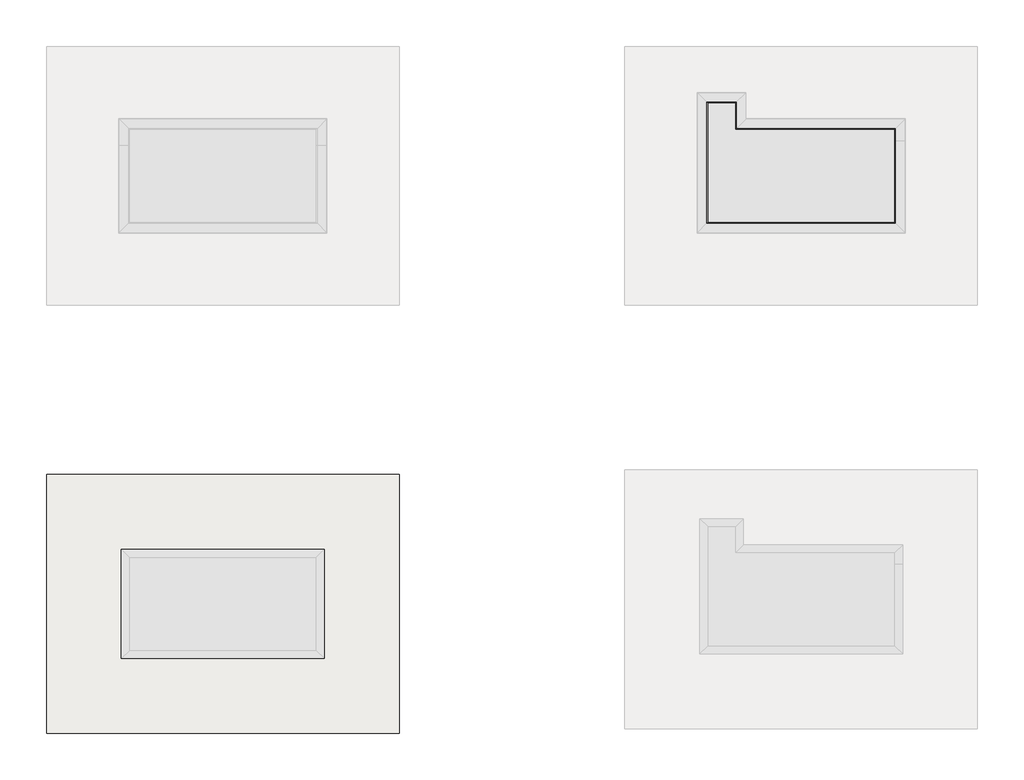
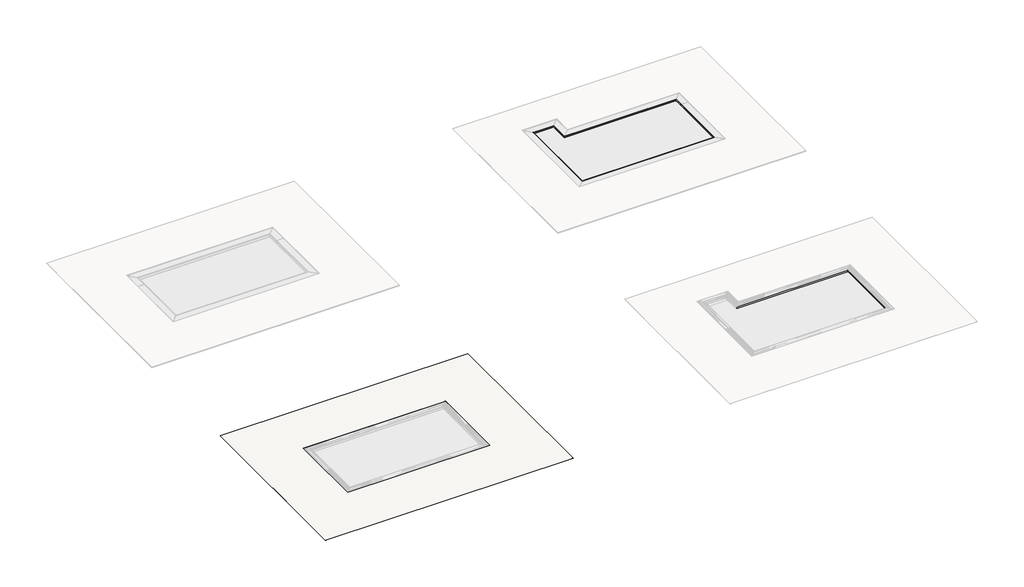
# One storey, part 2 of 8: 14 walls, 3 slabs.
"""IFC4 building model written with IfcOpenShell, lengths in millimetres."""

from ifc_helpers import new_model, si_unit, frame, origin, place, context, project, spatial, polyline, circle_curve, outline, extrude, faceted_brep, element, save
from ifc_brep_helpers import plane_surface, cylinder_surface, revolved_surface, advanced_brep

model = new_model("IFC4")

# Units and contexts
model_context = context("Model", 3, world=origin())
ifc_project = project(units=[si_unit("LENGTHUNIT", "METRE", prefix="MILLI")], contexts=[model_context])

# Site, building, storey
site = spatial("IfcSite", under=ifc_project)
building = spatial("IfcBuilding", under=site)
storey = spatial("IfcBuildingStorey", under=building, Name="EXAGRES_Serie YOHO_Piscinas_ejemplo", Elevation=0.0)

# Slabs
placement = place(None, origin())
element("IfcSlab", 1, ObjectType="Exagres_Piscina_Azul_Piscina_12x24,5_C3", at=placement, inside=storey, context=model_context, shape_type="SweptSolid", body=[
    extrude(outline(polyline([(-1509.0, -4589.848406), (-1500.0, -4589.848406), (-1500.0, -6819.8495187), (-500.0, -10819.8495187), (-500.0, -13049.8506315), (-509.0, -13049.8506315), (-509.0, -10819.8495187), (-1509.0, -6819.8495187), (-1509.0, -4589.848406)])), frame((0.0, -8536.1597881, 0.0), z_axis=(0.0, 1.0, 0.0), x_axis=(0.0, 0.0, 1.0)), (0.0, 0.0, 1.0), 4460.0022255),
])
element("IfcSlab", 2, ObjectType="Exagres_Piscina_Azul_Piscina_12x24,5_C3", at=placement, inside=storey, context=model_context, shape_type="SweptSolid", body=[
    extrude(outline(polyline([(-1509.0, -4589.848406), (-1500.0, -4589.848406), (-1500.0, -6819.8495187), (-500.0, -10819.8495187), (-500.0, -13049.8506315), (-509.0, -13049.8506315), (-509.0, -10819.8495187), (-1509.0, -6819.8495187), (-1509.0, -4589.848406)])), frame((0.0, -26830.0076884, 0.0), z_axis=(0.0, 1.0, 0.0), x_axis=(0.0, 0.0, 1.0)), (0.0, 0.0, 1.0), 4460.0022255),
])
element("IfcSlab", 3, ObjectType="Exagres_Yoho_Natural_Base_16,25x66,5_C3", at=placement, inside=storey, context=model_context, shape_type="SweptSolid", body=[
    extrude(outline(polyline([(-1289.848406, -19070.0054629), (-1289.848406, -30130.0076884), (-16349.8506315, -30130.0076884), (-16349.8506315, -19070.0054629), (-1289.848406, -19070.0054629)]), holes=[polyline([(-4489.8495187, -22270.0065757), (-13149.8495187, -22270.0065757), (-13149.8495187, -26930.0065757), (-4489.8495187, -26930.0065757), (-4489.8495187, -22270.0065757)])]), frame((0.0, 0.0, 20.0), z_axis=(0.0, 0.0, 1.0), x_axis=(1.0, 0.0, 0.0)), (0.0, 0.0, 1.0), 10.0),
])

# Walls
element("IfcWall", 4, ObjectType="Exagres_Piscina Skimmer - Borde 45x75 - Yoho Maple -", at=placement, inside=storey, context=model_context, shape_type="Brep", body=[
    faceted_brep([(17880.1504813, -4306.1586753, -1510.0), (19880.1504813, -4306.1586753, -1510.0), (19880.1504813, -4306.1586753, -1509.0), (17880.1504813, -4306.1586753, -1509.0), (13880.1504813, -4306.1586753, -509.0), (13080.1504813, -4306.1586753, -509.0), (13080.1504813, -4306.1586753, -510.0), (13880.1504813, -4306.1586753, -510.0), (20105.1504813, -4081.1586753, -1510.0), (17880.1504813, -4081.1586753, -1510.0), (13880.1504813, -4081.1586753, -510.0), (13305.1504813, -4081.1586753, -510.0), (13305.1504813, -4081.1586753, -509.0), (13880.1504813, -4081.1586753, -509.0), (17880.1504813, -4081.1586753, -1509.0), (20105.1504813, -4081.1586753, -1509.0)], [[[0, 1, 2, 3, 4, 5, 6, 7]], [[8, 9, 10, 11, 12, 13, 14, 15]], [[1, 0, 9, 8]], [[7, 6, 11, 10]], [[0, 7, 10, 9]], [[1, 8, 15, 2]], [[11, 6, 5, 12]], [[4, 13, 12, 5]], [[14, 3, 2, 15]], [[13, 4, 3, 14]]]),
    faceted_brep([(19880.1504813, -4306.1586753, 0.0), (13080.1504813, -4306.1586753, 0.0), (13080.1504813, -4306.1586753, -500.0), (13880.1504813, -4306.1586753, -500.0), (17880.1504813, -4306.1586753, -1500.0), (19880.1504813, -4306.1586753, -1500.0), (13305.1504813, -4081.1586753, -200.0), (20105.1504813, -4081.1586753, -200.0), (20105.1504813, -4081.1586753, -1500.0), (17880.1504813, -4081.1586753, -1500.0), (13880.1504813, -4081.1586753, -500.0), (13305.1504813, -4081.1586753, -500.0), (19905.1504813, -4281.1586753, -200.0), (13105.1504813, -4281.1586753, -200.0), (13105.1504813, -4281.1586753, 0.0), (19905.1504813, -4281.1586753, 0.0), (19892.3671448, -4293.9420118, 0.0), (19897.5535757, -4288.7555809, 0.0), (13097.5535757, -4288.7555809, 0.0), (13092.3671448, -4293.9420118, 0.0)], [[[0, 1, 2, 3, 4, 5]], [[6, 7, 8, 9, 10, 11]], [[12, 13, 14, 15]], [[13, 12, 7, 6]], [[1, 0, 16, 17, 15, 14, 18, 19]], [[7, 12, 15, 17, 16, 0, 5, 8]], [[19, 18, 14, 13, 6, 11, 2, 1]], [[10, 3, 2, 11]], [[4, 9, 8, 5]], [[3, 10, 9, 4]]]),
])
element("IfcWall", 5, ObjectType="Exagres_Piscina Skimmer - Borde 45x75 - Yoho Maple -", at=placement, inside=storey, context=model_context, shape_type="Brep", body=[
    faceted_brep([(19880.1504813, -4306.1586753, -1510.0), (19880.1504813, -4813.6586753, -1510.0), (19880.1504813, -4813.6586753, -1509.0), (19880.1504813, -4306.1586753, -1509.0), (20105.1504813, -4813.6586753, -1510.0), (20105.1504813, -4081.1586753, -1510.0), (20105.1504813, -4081.1586753, -1509.0), (20105.1504813, -4813.6586753, -1509.0)], [[[0, 1, 2, 3]], [[4, 5, 6, 7]], [[1, 0, 5, 4]], [[1, 4, 7, 2]], [[5, 0, 3, 6]], [[3, 2, 7, 6]]]),
    faceted_brep([(19880.1504813, -4813.6586753, 0.0), (19880.1504813, -4306.1586753, 0.0), (19880.1504813, -4306.1586753, -1500.0), (19880.1504813, -4813.6586753, -1500.0), (20105.1504813, -4081.1586753, -200.0), (20105.1504813, -4813.6586753, -200.0), (20105.1504813, -4813.6586753, -1500.0), (20105.1504813, -4081.1586753, -1500.0), (19905.1504813, -4813.6586753, -200.0), (19905.1504813, -4813.6586753, 0.0), (19897.5535757, -4813.6586753, 0.0), (19892.3671448, -4813.6586753, 0.0), (19905.1504813, -4281.1586753, 0.0), (19897.5535757, -4288.7555809, 0.0), (19892.3671448, -4293.9420118, 0.0), (19905.1504813, -4281.1586753, -200.0)], [[[0, 1, 2, 3]], [[4, 5, 6, 7]], [[8, 9, 10, 11, 0, 3, 6, 5]], [[1, 0, 11, 10, 9, 12, 13, 14]], [[9, 8, 15, 12]], [[5, 4, 15, 8]], [[12, 15, 4, 7, 2, 1, 14, 13]], [[3, 2, 7, 6]]]),
])
element("IfcWall", 6, ObjectType="Exagres_Piscina Skimmer - Borde 45x75 - Yoho Maple -", at=placement, inside=storey, context=model_context, shape_type="Brep", body=[
    faceted_brep([(19905.1504813, -8306.1586753, -200.0), (20105.1504813, -8306.1586753, -200.0), (20105.1504813, -8306.1586753, -1500.0), (17975.8793908, -8306.1586753, -1500.0), (16497.7724506, -8306.1586753, -1154.4054923), (13880.1504813, -8306.1586753, -500.0), (11880.1504813, -8306.1586753, -500.0), (11880.1504813, -8306.1586753, 0.0), (19880.1504813, -8306.1586753, 0.0), (19892.3671448, -8306.1586753, 0.0), (19897.5535757, -8306.1586753, 0.0), (19905.1504813, -8306.1586753, 0.0), (20105.1504813, -8531.1586753, -200.0), (11655.1504813, -8531.1586753, -200.0), (11655.1504813, -8531.1586753, -500.0), (13880.1504813, -8531.1586753, -500.0), (16497.7724506, -8531.1586753, -1154.4054923), (17975.8793908, -8531.1586753, -1500.0), (20105.1504813, -8531.1586753, -1500.0), (19905.1504813, -8331.1586753, -200.0), (19905.1504813, -8331.1586753, 0.0), (11855.1504813, -8331.1586753, 0.0), (11855.1504813, -8331.1586753, -200.0), (11867.9338177, -8318.3753388, 0.0), (11862.7473869, -8323.5617697, 0.0)], [[[0, 1, 2, 3, 4, 5, 6, 7, 8, 9, 10, 11]], [[12, 13, 14, 15, 16, 17, 18]], [[19, 20, 21, 22]], [[19, 22, 13, 12, 1, 0]], [[20, 19, 0, 11]], [[8, 7, 23, 24, 21, 20, 11, 10, 9]], [[4, 3, 17, 16]], [[13, 22, 21, 24, 23, 7, 6, 14]], [[1, 12, 18, 2]], [[5, 15, 14, 6]], [[3, 2, 18, 17]], [[15, 5, 4, 16]]]),
    faceted_brep([(13741.651594, -8306.1586753, -510.0), (11880.1504813, -8306.1586753, -510.0), (11880.1504813, -8306.1586753, -509.0), (13880.1504813, -8306.1586753, -509.0), (15941.9126782, -8306.1586753, -1024.4405492), (11655.1504813, -8531.1586753, -510.0), (13741.651594, -8531.1586753, -510.0), (15941.9126782, -8531.1586753, -1024.4405492), (13880.1504813, -8531.1586753, -509.0), (11655.1504813, -8531.1586753, -509.0)], [[[0, 1, 2, 3, 4]], [[5, 6, 7, 8, 9]], [[6, 0, 4, 7]], [[1, 0, 6, 5]], [[1, 5, 9, 2]], [[8, 3, 2, 9]], [[3, 8, 7, 4]]]),
    faceted_brep([(20105.1504813, -8306.1586753, -1510.0), (19880.1504813, -8306.1586753, -1510.0), (18018.6493685, -8306.1586753, -1510.0), (18014.3723707, -8306.1586753, -1509.0), (20105.1504813, -8306.1586753, -1509.0), (18018.6493685, -8531.1586753, -1510.0), (20105.1504813, -8531.1586753, -1510.0), (20105.1504813, -8531.1586753, -1509.0), (18014.3723707, -8531.1586753, -1509.0)], [[[0, 1, 2, 3, 4]], [[5, 6, 7, 8]], [[2, 1, 0, 6, 5]], [[2, 5, 8, 3]], [[6, 0, 4, 7]], [[4, 3, 8, 7]]]),
])
element("IfcWall", 7, ObjectType="Exagres_Piscina Skimmer - Borde 45x75 - Yoho Maple -", at=placement, inside=storey, context=model_context, shape_type="AdvancedBrep", body=[
    advanced_brep(
    [(11880.1504813, -8306.1586753, -500.0), (11880.1504813, -4306.1586753, -500.0), (11880.1504813, -4081.1586753, -500.0), (11880.1504813, -3186.1586753, -500.0), (11880.1504813, -3186.1586753, -109.0), (11880.1504813, -3402.2586753, -109.0), (11880.1504813, -3402.2586753, -106.4), (11880.1504813, -3402.2586753, -100.0), (11880.1504813, -3186.1586753, -100.0), (11880.1504813, -3186.1586753, 0.0), (11880.1504813, -8306.1586753, 0.0), (11880.1504813, -4026.1586753, -409.0), (11880.1504813, -4282.2586753, -409.0), (11880.1504813, -4282.2586753, -406.4), (11880.1504813, -4299.7586753, -423.9), (11880.1504813, -4306.1586753, -423.9), (11880.1504813, -4282.2586753, -400.0), (11880.1504813, -4026.1586753, -400.0), (11880.1504813, -3726.1586753, -309.0), (11880.1504813, -4002.2586753, -309.0), (11880.1504813, -4002.2586753, -306.4), (11880.1504813, -4019.7586753, -323.9), (11880.1504813, -4026.1586753, -323.9), (11880.1504813, -4002.2586753, -300.0), (11880.1504813, -3726.1586753, -300.0), (11880.1504813, -3426.1586753, -209.0), (11880.1504813, -3702.2586753, -209.0), (11880.1504813, -3702.2586753, -206.4), (11880.1504813, -3719.7586753, -223.9), (11880.1504813, -3726.1586753, -223.9), (11880.1504813, -3702.2586753, -200.0), (11880.1504813, -3426.1586753, -200.0), (11655.1504813, -2961.1586753, -500.0), (11655.1504813, -8531.1586753, -500.0), (11655.1504813, -8531.1586753, -200.0), (11655.1504813, -2961.1586753, -200.0), (11867.9338177, -3173.9420118, 0.0), (11862.7473869, -3168.7555809, 0.0), (11855.1504813, -3161.1586753, 0.0), (11855.1504813, -8331.1586753, 0.0), (11862.7473869, -8323.5617697, 0.0), (11867.9338177, -8318.3753388, 0.0), (11855.1504813, -8331.1586753, -200.0), (11855.1504813, -3161.1586753, -100.0), (11855.1504813, -3402.2586753, -100.0), (11855.1504813, -3402.2586753, -109.0), (11855.1504813, -3161.1586753, -109.0), (11855.1504813, -3161.1586753, -200.0), (11855.1504813, -3426.1586753, -200.0), (11855.1504813, -3702.2586753, -200.0), (11855.1504813, -4026.1586753, -409.0), (11855.1504813, -4282.2586753, -409.0), (11855.1504813, -4026.1586753, -400.0), (11855.1504813, -4282.2586753, -400.0), (11855.1504813, -4306.1586753, -423.9), (11855.1504813, -4299.7586753, -423.9), (11855.1504813, -4282.2586753, -406.4), (11855.1504813, -3726.1586753, -309.0), (11855.1504813, -4002.2586753, -309.0), (11855.1504813, -3726.1586753, -300.0), (11855.1504813, -4002.2586753, -300.0), (11855.1504813, -4026.1586753, -323.9), (11855.1504813, -4019.7586753, -323.9), (11855.1504813, -4002.2586753, -306.4), (11855.1504813, -3426.1586753, -209.0), (11855.1504813, -3702.2586753, -209.0), (11855.1504813, -3426.1586753, -200.0), (11855.1504813, -3702.2586753, -200.0), (11855.1504813, -3726.1586753, -223.9), (11855.1504813, -3719.7586753, -223.9), (11855.1504813, -3702.2586753, -206.4)],
    [
        (0, 1),
        (1, 2),
        (2, 3),
        (3, 4),
        (4, 5),
        (5, 6),
        (6, 7),
        (7, 8),
        (8, 9),
        (9, 10),
        (10, 0),
        (11, 12),
        (12, 13),
        (13, 14, circle_curve(frame((11880.1504813, -4282.2586753, -423.9), z_axis=(1.0, 0.0, 0.0), x_axis=(0.0, 1.0, 0.0)), 17.5)),
        (14, 15),
        (15, 16, circle_curve(frame((11880.1504813, -4282.2586753, -423.9), z_axis=(-1.0, 0.0, 0.0), x_axis=(0.0, 1.0, 0.0)), 23.9)),
        (16, 17),
        (17, 11),
        (18, 19),
        (19, 20),
        (20, 21, circle_curve(frame((11880.1504813, -4002.2586753, -323.9), z_axis=(1.0, 0.0, 0.0), x_axis=(0.0, 1.0, 0.0)), 17.5)),
        (21, 22),
        (22, 23, circle_curve(frame((11880.1504813, -4002.2586753, -323.9), z_axis=(-1.0, 0.0, 0.0), x_axis=(0.0, 1.0, 0.0)), 23.9)),
        (23, 24),
        (24, 18),
        (25, 26),
        (26, 27),
        (27, 28, circle_curve(frame((11880.1504813, -3702.2586753, -223.9), z_axis=(1.0, 0.0, 0.0), x_axis=(0.0, 1.0, 0.0)), 17.5)),
        (28, 29),
        (29, 30, circle_curve(frame((11880.1504813, -3702.2586753, -223.9), z_axis=(-1.0, 0.0, 0.0), x_axis=(0.0, 1.0, 0.0)), 23.9)),
        (30, 31),
        (31, 25),
        (32, 33),
        (33, 34),
        (34, 35),
        (35, 32),
        (0, 33),
        (32, 3),
        (9, 36),
        (36, 37),
        (37, 38),
        (38, 39),
        (39, 40),
        (40, 41),
        (41, 10),
        (42, 39),
        (38, 43),
        (43, 44),
        (44, 45),
        (45, 46),
        (46, 47),
        (47, 48),
        (48, 49),
        (49, 42),
        (34, 42),
        (47, 35),
        (46, 4),
        (8, 43),
        (11, 50),
        (50, 51),
        (51, 12),
        (52, 17),
        (16, 53),
        (53, 52),
        (50, 52),
        (53, 54, circle_curve(frame((11855.1504813, -4282.2586753, -423.9), z_axis=(1.0, 0.0, 0.0), x_axis=(0.0, 1.0, 0.0)), 23.9)),
        (54, 55),
        (55, 56, circle_curve(frame((11855.1504813, -4282.2586753, -423.9), z_axis=(-1.0, 0.0, 0.0), x_axis=(0.0, 1.0, 0.0)), 17.5)),
        (56, 51),
        (18, 57),
        (57, 58),
        (58, 19),
        (59, 24),
        (23, 60),
        (60, 59),
        (57, 59),
        (60, 61, circle_curve(frame((11855.1504813, -4002.2586753, -323.9), z_axis=(1.0, 0.0, 0.0), x_axis=(0.0, 1.0, 0.0)), 23.9)),
        (61, 62),
        (62, 63, circle_curve(frame((11855.1504813, -4002.2586753, -323.9), z_axis=(-1.0, 0.0, 0.0), x_axis=(0.0, 1.0, 0.0)), 17.5)),
        (63, 58),
        (25, 64),
        (64, 65),
        (65, 26),
        (66, 31),
        (30, 67),
        (67, 66),
        (64, 66),
        (67, 68, circle_curve(frame((11855.1504813, -3702.2586753, -223.9), z_axis=(1.0, 0.0, 0.0), x_axis=(0.0, 1.0, 0.0)), 23.9)),
        (68, 69),
        (69, 70, circle_curve(frame((11855.1504813, -3702.2586753, -223.9), z_axis=(-1.0, 0.0, 0.0), x_axis=(0.0, 1.0, 0.0)), 17.5)),
        (70, 65),
        (45, 5),
        (7, 44),
        (70, 27),
        (63, 20),
        (56, 13),
        (15, 54),
        (55, 14),
        (22, 61),
        (62, 21),
        (29, 68),
        (69, 28),
    ],
    [
        plane_surface(frame((11880.1504813, -8306.1586753, -500.0), z_axis=(1.0, 0.0, 0.0), x_axis=(0.0, 1.0, 0.0))),
        plane_surface(frame((11655.1504813, -8306.1586753, -500.0), z_axis=(-1.0, 0.0, 0.0), x_axis=(0.0, -1.0, 0.0))),
        plane_surface(frame((11880.1504813, -8418.6586753, -500.0), z_axis=(0.0, 0.0, -1.0), x_axis=(-1.0, 0.0, 0.0))),
        plane_surface(frame((11880.1504813, -3073.6586753, 0.0), z_axis=(0.0, 0.0, 1.0), x_axis=(-1.0, 0.0, 0.0))),
        plane_surface(frame((11855.1504813, -8331.1586753, -200.0), z_axis=(-1.0, 0.0, 0.0), x_axis=(0.0, 1.0, 0.0))),
        plane_surface(frame((19880.1504813, -8731.1586753, -200.0), z_axis=(0.0, 0.0, 1.0), x_axis=(-1.0, 0.0, 0.0))),
        plane_surface(frame((11880.1504813, -3186.1586753, 0.0), z_axis=(0.7071067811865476, 0.7071067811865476, 0.0), x_axis=(-0.7071067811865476, 0.7071067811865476, 0.0))),
        plane_surface(frame((11655.1504813, -8531.1586753, 0.0), z_axis=(0.7071067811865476, -0.7071067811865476, 0.0), x_axis=(0.7071067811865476, 0.7071067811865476, 0.0))),
        plane_surface(frame((13080.1504813, -3839.4052265, -409.0), z_axis=(0.0, 0.0, 1.0), x_axis=(0.0, -1.0, 0.0))),
        plane_surface(frame((13080.1504813, -3839.4052265, -400.0), z_axis=(0.0, 0.0, -1.0), x_axis=(0.0, 1.0, 0.0))),
        plane_surface(frame((11855.1504813, -4306.1586753, -409.0), z_axis=(1.0, 0.0, 0.0), x_axis=(0.0, 0.0, 1.0))),
        plane_surface(frame((11855.1504813, -4026.1586753, -409.0), z_axis=(0.0, -1.0, 0.0), x_axis=(0.0, 0.0, 1.0))),
        plane_surface(frame((13105.1504813, -3539.4052265, -309.0), z_axis=(0.0, 0.0, 1.0), x_axis=(0.0, -1.0, 0.0))),
        plane_surface(frame((13105.1504813, -3539.4052265, -300.0), z_axis=(0.0, 0.0, -1.0), x_axis=(0.0, 1.0, 0.0))),
        plane_surface(frame((11855.1504813, -4026.1586753, -309.0), z_axis=(1.0, 0.0, 0.0), x_axis=(0.0, 0.0, 1.0))),
        plane_surface(frame((11855.1504813, -3726.1586753, -309.0), z_axis=(0.0, -1.0, 0.0), x_axis=(0.0, 0.0, 1.0))),
        plane_surface(frame((13105.1504813, -3099.4052265, -209.0), z_axis=(0.0, 0.0, 1.0), x_axis=(0.0, -1.0, 0.0))),
        plane_surface(frame((13105.1504813, -3099.4052265, -200.0), z_axis=(0.0, 0.0, -1.0), x_axis=(0.0, 1.0, 0.0))),
        plane_surface(frame((11855.1504813, -3726.1586753, -209.0), z_axis=(1.0, 0.0, 0.0), x_axis=(0.0, 0.0, 1.0))),
        plane_surface(frame((11855.1504813, -3426.1586753, -209.0), z_axis=(0.0, -1.0, 0.0), x_axis=(0.0, 0.0, 1.0))),
        plane_surface(frame((13105.1504813, -2799.4052265, -109.0), z_axis=(0.0, 0.0, 1.0), x_axis=(0.0, -1.0, 0.0))),
        plane_surface(frame((13105.1504813, -2799.4052265, -100.0), z_axis=(0.0, 0.0, -1.0), x_axis=(0.0, 1.0, 0.0))),
        plane_surface(frame((11855.1504813, -3402.2586753, -100.0), z_axis=(0.0, 1.0, 0.0), x_axis=(1.0, 0.0, 0.0))),
        plane_surface(frame((11855.1504813, -3702.2586753, -200.0), z_axis=(0.0, 1.0, 0.0), x_axis=(1.0, 0.0, 0.0))),
        plane_surface(frame((11855.1504813, -4002.2586753, -300.0), z_axis=(0.0, 1.0, 0.0), x_axis=(1.0, 0.0, 0.0))),
        plane_surface(frame((11855.1504813, -4282.2586753, -400.0), z_axis=(0.0, 1.0, 0.0), x_axis=(1.0, 0.0, 0.0))),
        revolved_surface(polyline([(11855.1504813, -4258.3586753, -423.9), (11880.1504813, -4258.3586753, -423.9)]), (11855.1504813, -4282.2586753, -423.9), (-1.0, 0.0, 0.0)),
        cylinder_surface(frame((11855.1504813, -4282.2586753, -423.9), z_axis=(1.0, 0.0, 0.0), x_axis=(0.0, 1.0, 0.0)), 17.5),
        plane_surface(frame((11855.1504813, -4299.7586753, -423.9), z_axis=(0.0, 0.0, 1.0), x_axis=(1.0, 0.0, 0.0))),
        revolved_surface(polyline([(11855.1504813, -3978.3586753, -323.9), (11880.1504813, -3978.3586753, -323.9)]), (11855.1504813, -4002.2586753, -323.9), (-1.0, 0.0, 0.0)),
        cylinder_surface(frame((11855.1504813, -4002.2586753, -323.9), z_axis=(1.0, 0.0, 0.0), x_axis=(0.0, 1.0, 0.0)), 17.5),
        plane_surface(frame((11855.1504813, -4019.7586753, -323.9), z_axis=(0.0, 0.0, 1.0), x_axis=(1.0, 0.0, 0.0))),
        revolved_surface(polyline([(11855.1504813, -3678.3586753, -223.9), (11880.1504813, -3678.3586753, -223.9)]), (11855.1504813, -3702.2586753, -223.9), (-1.0, 0.0, 0.0)),
        cylinder_surface(frame((11855.1504813, -3702.2586753, -223.9), z_axis=(1.0, 0.0, 0.0), x_axis=(0.0, 1.0, 0.0)), 17.5),
        plane_surface(frame((11855.1504813, -3719.7586753, -223.9), z_axis=(0.0, 0.0, 1.0), x_axis=(1.0, 0.0, 0.0))),
    ],
    [
        (0, [[1, 2, 3, 4, 5, 6, 7, 8, 9, 10, 11], [12, 13, 14, 15, 16, 17, 18], [19, 20, 21, 22, 23, 24, 25], [26, 27, 28, 29, 30, 31, 32]]),
        (1, [[33, 34, 35, 36]]),
        (2, [[-3, -2, -1, 37, -33, 38]]),
        (3, [[-10, 39, 40, 41, 42, 43, 44, 45]]),
        (4, [[46, -42, 47, 48, 49, 50, 51, 52, 53, 54]]),
        (5, [[-35, 55, -54, -53, -52, 56]]),
        (6, [[-38, -36, -56, -51, 57, -4]]),
        (6, [[-39, -9, 58, -47, -41, -40]]),
        (7, [[-11, -45, -44, -43, -46, -55, -34, -37]]),
        (8, [[59, 60, 61, -12]]),
        (9, [[62, -17, 63, 64]]),
        (10, [[65, -64, 66, 67, 68, 69, -60]]),
        (11, [[-65, -59, -18, -62]]),
        (12, [[70, 71, 72, -19]]),
        (13, [[73, -24, 74, 75]]),
        (14, [[76, -75, 77, 78, 79, 80, -71]]),
        (15, [[-76, -70, -25, -73]]),
        (16, [[81, 82, 83, -26]]),
        (17, [[84, -31, 85, 86]]),
        (18, [[87, -86, 88, 89, 90, 91, -82]]),
        (19, [[-87, -81, -32, -84]]),
        (20, [[-5, -57, -50, 92]]),
        (21, [[-8, 93, -48, -58]]),
        (22, [[-92, -49, -93, -7, -6]]),
        (23, [[-83, -91, 94, -27]]),
        (24, [[-72, -80, 95, -20]]),
        (25, [[-61, -69, 96, -13]]),
        (26, [[-66, -63, -16, 97]]),
        (27, [[-68, 98, -14, -96]]),
        (28, [[-67, -97, -15, -98]]),
        (29, [[-77, -74, -23, 99]]),
        (30, [[-79, 100, -21, -95]]),
        (31, [[-78, -99, -22, -100]]),
        (32, [[-88, -85, -30, 101]]),
        (33, [[-90, 102, -28, -94]]),
        (34, [[-89, -101, -29, -102]]),
    ],
),
])
element("IfcWall", 8, ObjectType="Exagres_Piscina Skimmer - Borde 45x75 - Yoho Maple -", at=placement, inside=storey, context=model_context, shape_type="AdvancedBrep", body=[
    advanced_brep(
    [(13305.1504813, -4081.1586753, -500.0), (13305.1504813, -2961.1586753, -500.0), (13305.1504813, -2961.1586753, -200.0), (13305.1504813, -4081.1586753, -200.0), (13080.1504813, -3186.1586753, -500.0), (13080.1504813, -4081.1586753, -500.0), (13080.1504813, -4306.1586753, -500.0), (13080.1504813, -4306.1586753, 0.0), (13080.1504813, -3186.1586753, 0.0), (13080.1504813, -3186.1586753, -100.0), (13080.1504813, -3402.2586753, -100.0), (13080.1504813, -3426.1586753, -123.9), (13080.1504813, -3419.7586753, -123.9), (13080.1504813, -3402.2586753, -106.4), (13080.1504813, -3402.2586753, -109.0), (13080.1504813, -3186.1586753, -109.0), (13080.1504813, -3702.2586753, -209.0), (13080.1504813, -3426.1586753, -209.0), (13080.1504813, -3426.1586753, -200.0), (13080.1504813, -3702.2586753, -200.0), (13080.1504813, -3726.1586753, -223.9), (13080.1504813, -3719.7586753, -223.9), (13080.1504813, -3702.2586753, -206.4), (13080.1504813, -4002.2586753, -309.0), (13080.1504813, -3726.1586753, -309.0), (13080.1504813, -3726.1586753, -300.0), (13080.1504813, -4002.2586753, -300.0), (13080.1504813, -4026.1586753, -323.9), (13080.1504813, -4019.7586753, -323.9), (13080.1504813, -4002.2586753, -306.4), (13092.3671448, -4293.9420118, 0.0), (13097.5535757, -4288.7555809, 0.0), (13105.1504813, -4281.1586753, 0.0), (13105.1504813, -3161.1586753, 0.0), (13097.5535757, -3168.7555809, 0.0), (13092.3671448, -3173.9420118, 0.0), (13105.1504813, -4281.1586753, -200.0), (13105.1504813, -3702.2586753, -200.0), (13105.1504813, -3426.1586753, -200.0), (13105.1504813, -3161.1586753, -200.0), (13105.1504813, -3161.1586753, -109.0), (13105.1504813, -3402.2586753, -109.0), (13105.1504813, -3402.2586753, -106.4), (13105.1504813, -3419.7586753, -123.9), (13105.1504813, -3426.1586753, -123.9), (13105.1504813, -3402.2586753, -100.0), (13105.1504813, -3161.1586753, -100.0), (13105.1504813, -3426.1586753, -209.0), (13105.1504813, -3702.2586753, -209.0), (13105.1504813, -3426.1586753, -200.0), (13105.1504813, -3702.2586753, -200.0), (13105.1504813, -3702.2586753, -206.4), (13105.1504813, -3719.7586753, -223.9), (13105.1504813, -3726.1586753, -223.9), (13105.1504813, -3726.1586753, -309.0), (13105.1504813, -4002.2586753, -309.0), (13105.1504813, -3726.1586753, -300.0), (13105.1504813, -4002.2586753, -300.0), (13105.1504813, -4002.2586753, -306.4), (13105.1504813, -4019.7586753, -323.9), (13105.1504813, -4026.1586753, -323.9)],
    [
        (0, 1),
        (1, 2),
        (2, 3),
        (3, 0),
        (4, 5),
        (5, 6),
        (6, 7),
        (7, 8),
        (8, 9),
        (9, 10),
        (10, 11, circle_curve(frame((13080.1504813, -3402.2586753, -123.9), z_axis=(1.0, 0.0, 0.0), x_axis=(0.0, 1.0, 0.0)), 23.9)),
        (11, 12),
        (12, 13, circle_curve(frame((13080.1504813, -3402.2586753, -123.9), z_axis=(-1.0, 0.0, 0.0), x_axis=(0.0, 1.0, 0.0)), 17.5)),
        (13, 14),
        (14, 15),
        (15, 4),
        (16, 17),
        (17, 18),
        (18, 19),
        (19, 20, circle_curve(frame((13080.1504813, -3702.2586753, -223.9), z_axis=(1.0, 0.0, 0.0), x_axis=(0.0, 1.0, 0.0)), 23.9)),
        (20, 21),
        (21, 22, circle_curve(frame((13080.1504813, -3702.2586753, -223.9), z_axis=(-1.0, 0.0, 0.0), x_axis=(0.0, 1.0, 0.0)), 17.5)),
        (22, 16),
        (23, 24),
        (24, 25),
        (25, 26),
        (26, 27, circle_curve(frame((13080.1504813, -4002.2586753, -323.9), z_axis=(1.0, 0.0, 0.0), x_axis=(0.0, 1.0, 0.0)), 23.9)),
        (27, 28),
        (28, 29, circle_curve(frame((13080.1504813, -4002.2586753, -323.9), z_axis=(-1.0, 0.0, 0.0), x_axis=(0.0, 1.0, 0.0)), 17.5)),
        (29, 23),
        (0, 6),
        (4, 1),
        (7, 30),
        (30, 31),
        (31, 32),
        (32, 33),
        (33, 34),
        (34, 35),
        (35, 8),
        (32, 36),
        (36, 37),
        (37, 38),
        (38, 39),
        (39, 40),
        (40, 41),
        (41, 42),
        (42, 43, circle_curve(frame((13105.1504813, -3402.2586753, -123.9), z_axis=(1.0, 0.0, 0.0), x_axis=(0.0, 1.0, 0.0)), 17.5)),
        (43, 44),
        (44, 45, circle_curve(frame((13105.1504813, -3402.2586753, -123.9), z_axis=(-1.0, 0.0, 0.0), x_axis=(0.0, 1.0, 0.0)), 23.9)),
        (45, 46),
        (46, 33),
        (2, 39),
        (36, 3),
        (15, 40),
        (46, 9),
        (14, 41),
        (45, 10),
        (47, 17),
        (16, 48),
        (48, 47),
        (18, 49),
        (49, 50),
        (50, 19),
        (49, 47),
        (48, 51),
        (51, 52, circle_curve(frame((13105.1504813, -3702.2586753, -223.9), z_axis=(1.0, 0.0, 0.0), x_axis=(0.0, 1.0, 0.0)), 17.5)),
        (52, 53),
        (53, 50, circle_curve(frame((13105.1504813, -3702.2586753, -223.9), z_axis=(-1.0, 0.0, 0.0), x_axis=(0.0, 1.0, 0.0)), 23.9)),
        (54, 24),
        (23, 55),
        (55, 54),
        (25, 56),
        (56, 57),
        (57, 26),
        (56, 54),
        (55, 58),
        (58, 59, circle_curve(frame((13105.1504813, -4002.2586753, -323.9), z_axis=(1.0, 0.0, 0.0), x_axis=(0.0, 1.0, 0.0)), 17.5)),
        (59, 60),
        (60, 57, circle_curve(frame((13105.1504813, -4002.2586753, -323.9), z_axis=(-1.0, 0.0, 0.0), x_axis=(0.0, 1.0, 0.0)), 23.9)),
        (13, 42),
        (22, 51),
        (29, 58),
        (60, 27),
        (28, 59),
        (53, 20),
        (21, 52),
        (44, 11),
        (12, 43),
    ],
    [
        plane_surface(frame((13305.1504813, -3839.4052265, -500.0), z_axis=(1.0, 0.0, 0.0), x_axis=(0.0, 1.0, 0.0))),
        plane_surface(frame((13080.1504813, -3839.4052265, -500.0), z_axis=(-1.0, 0.0, 0.0), x_axis=(0.0, -1.0, 0.0))),
        plane_surface(frame((13305.1504813, -4193.6586753, -500.0), z_axis=(0.0, 0.0, -1.0), x_axis=(-1.0, 0.0, 0.0))),
        plane_surface(frame((13305.1504813, -3073.6586753, 0.0), z_axis=(0.0, 0.0, 1.0), x_axis=(-1.0, 0.0, 0.0))),
        plane_surface(frame((13105.1504813, -4281.1586753, 0.0), z_axis=(1.0, 0.0, 0.0), x_axis=(0.0, 1.0, 0.0))),
        plane_surface(frame((19880.1504813, -4281.1586753, -200.0), z_axis=(0.0, 0.0, 1.0), x_axis=(-1.0, 0.0, 0.0))),
        plane_surface(frame((13305.1504813, -2961.1586753, 0.0), z_axis=(-0.7071067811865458, 0.7071067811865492, 0.0), x_axis=(-0.7071067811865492, -0.7071067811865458, 0.0))),
        plane_surface(frame((13105.1504813, -2799.4052265, -109.0), z_axis=(0.0, 0.0, 1.0), x_axis=(0.0, -1.0, 0.0))),
        plane_surface(frame((13105.1504813, -2799.4052265, -100.0), z_axis=(0.0, 0.0, -1.0), x_axis=(0.0, 1.0, 0.0))),
        plane_surface(frame((13105.1504813, -3099.4052265, -209.0), z_axis=(0.0, 0.0, 1.0), x_axis=(0.0, -1.0, 0.0))),
        plane_surface(frame((13105.1504813, -3099.4052265, -200.0), z_axis=(0.0, 0.0, -1.0), x_axis=(0.0, 1.0, 0.0))),
        plane_surface(frame((13105.1504813, -3426.1586753, -209.0), z_axis=(-1.0, 0.0, 0.0), x_axis=(0.0, 0.0, 1.0))),
        plane_surface(frame((11855.1504813, -3426.1586753, -209.0), z_axis=(0.0, -1.0, 0.0), x_axis=(0.0, 0.0, 1.0))),
        plane_surface(frame((13105.1504813, -3539.4052265, -309.0), z_axis=(0.0, 0.0, 1.0), x_axis=(0.0, -1.0, 0.0))),
        plane_surface(frame((13105.1504813, -3539.4052265, -300.0), z_axis=(0.0, 0.0, -1.0), x_axis=(0.0, 1.0, 0.0))),
        plane_surface(frame((13105.1504813, -3726.1586753, -309.0), z_axis=(-1.0, 0.0, 0.0), x_axis=(0.0, 0.0, 1.0))),
        plane_surface(frame((11855.1504813, -3726.1586753, -309.0), z_axis=(0.0, -1.0, 0.0), x_axis=(0.0, 0.0, 1.0))),
        plane_surface(frame((13080.1504813, -4306.1586753, 0.0), z_axis=(0.7071067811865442, -0.707106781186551, 0.0), x_axis=(0.707106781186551, 0.7071067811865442, 0.0))),
        plane_surface(frame((11855.1504813, -3402.2586753, -100.0), z_axis=(0.0, 1.0, 0.0), x_axis=(1.0, 0.0, 0.0))),
        plane_surface(frame((11855.1504813, -3702.2586753, -200.0), z_axis=(0.0, 1.0, 0.0), x_axis=(1.0, 0.0, 0.0))),
        plane_surface(frame((11855.1504813, -4002.2586753, -300.0), z_axis=(0.0, 1.0, 0.0), x_axis=(1.0, 0.0, 0.0))),
        revolved_surface(polyline([(13080.1504813, -3978.3586753, -323.9), (13105.1504813, -3978.3586753, -323.9)]), (11855.1504813, -4002.2586753, -323.9), (-1.0, 0.0, 0.0)),
        cylinder_surface(frame((11855.1504813, -4002.2586753, -323.9), z_axis=(1.0, 0.0, 0.0), x_axis=(0.0, 1.0, 0.0)), 17.5),
        plane_surface(frame((11855.1504813, -4019.7586753, -323.9), z_axis=(0.0, 0.0, 1.0), x_axis=(1.0, 0.0, 0.0))),
        revolved_surface(polyline([(13080.1504813, -3678.3586753, -223.9), (13105.1504813, -3678.3586753, -223.9)]), (11855.1504813, -3702.2586753, -223.9), (-1.0, 0.0, 0.0)),
        cylinder_surface(frame((11855.1504813, -3702.2586753, -223.9), z_axis=(1.0, 0.0, 0.0), x_axis=(0.0, 1.0, 0.0)), 17.5),
        plane_surface(frame((11855.1504813, -3719.7586753, -223.9), z_axis=(0.0, 0.0, 1.0), x_axis=(1.0, 0.0, 0.0))),
        revolved_surface(polyline([(13080.1504813, -3378.3586753, -123.9), (13105.1504813, -3378.3586753, -123.9)]), (11855.1504813, -3402.2586753, -123.9), (-1.0, 0.0, 0.0)),
        cylinder_surface(frame((11855.1504813, -3402.2586753, -123.9), z_axis=(1.0, 0.0, 0.0), x_axis=(0.0, 1.0, 0.0)), 17.5),
        plane_surface(frame((11855.1504813, -3419.7586753, -123.9), z_axis=(0.0, 0.0, 1.0), x_axis=(1.0, 0.0, 0.0))),
    ],
    [
        (0, [[1, 2, 3, 4]]),
        (1, [[5, 6, 7, 8, 9, 10, 11, 12, 13, 14, 15, 16], [17, 18, 19, 20, 21, 22, 23], [24, 25, 26, 27, 28, 29, 30]]),
        (2, [[-1, 31, -6, -5, 32]]),
        (3, [[-8, 33, 34, 35, 36, 37, 38, 39]]),
        (4, [[-36, 40, 41, 42, 43, 44, 45, 46, 47, 48, 49, 50, 51]]),
        (5, [[-3, 52, -43, -42, -41, 53]]),
        (6, [[-32, -16, 54, -44, -52, -2]]),
        (6, [[-39, -38, -37, -51, 55, -9]]),
        (7, [[-15, 56, -45, -54]]),
        (8, [[-10, -55, -50, 57]]),
        (9, [[58, -17, 59, 60]]),
        (10, [[61, 62, 63, -19]]),
        (11, [[64, -60, 65, 66, 67, 68, -62]]),
        (12, [[-64, -61, -18, -58]]),
        (13, [[69, -24, 70, 71]]),
        (14, [[72, 73, 74, -26]]),
        (15, [[75, -71, 76, 77, 78, 79, -73]]),
        (16, [[-75, -72, -25, -69]]),
        (17, [[-31, -4, -53, -40, -35, -34, -33, -7]]),
        (18, [[-56, -14, 80, -46]]),
        (19, [[-59, -23, 81, -65]]),
        (20, [[-70, -30, 82, -76]]),
        (21, [[-79, 83, -27, -74]]),
        (22, [[-77, -82, -29, 84]]),
        (23, [[-78, -84, -28, -83]]),
        (24, [[-68, 85, -20, -63]]),
        (25, [[-66, -81, -22, 86]]),
        (26, [[-67, -86, -21, -85]]),
        (27, [[87, -11, -57, -49]]),
        (28, [[88, -47, -80, -13]]),
        (29, [[-87, -48, -88, -12]]),
    ],
),
])
element("IfcWall", 9, ObjectType="Exagres_Piscina Skimmer - Borde 45x75 - Yoho Maple -", at=placement, inside=storey, context=model_context, shape_type="Brep", body=[
    faceted_brep([(11880.1504813, -3186.1586753, -250.0), (13080.1504813, -3186.1586753, -250.0), (13080.1504813, -3186.1586753, -109.0), (11880.1504813, -3186.1586753, -109.0), (13305.1504813, -2961.1586753, -250.0), (11655.1504813, -2961.1586753, -250.0), (11655.1504813, -2961.1586753, -200.0), (13305.1504813, -2961.1586753, -200.0), (13105.1504813, -3161.1586753, -200.0), (11855.1504813, -3161.1586753, -200.0), (11855.1504813, -3161.1586753, -109.0), (13105.1504813, -3161.1586753, -109.0)], [[[0, 1, 2, 3]], [[4, 5, 6, 7]], [[1, 0, 5, 4]], [[8, 9, 10, 11]], [[5, 0, 3, 10, 9, 6]], [[1, 4, 7, 8, 11, 2]], [[9, 8, 7, 6]], [[3, 2, 11, 10]]]),
    faceted_brep([(13080.1504813, -3186.1586753, 0.0), (11880.1504813, -3186.1586753, 0.0), (11880.1504813, -3186.1586753, -100.0), (13080.1504813, -3186.1586753, -100.0), (13092.3671448, -3173.9420118, 0.0), (13097.5535757, -3168.7555809, 0.0), (13105.1504813, -3161.1586753, 0.0), (11855.1504813, -3161.1586753, 0.0), (11862.7473869, -3168.7555809, 0.0), (11867.9338177, -3173.9420118, 0.0), (13105.1504813, -3161.1586753, -100.0), (11855.1504813, -3161.1586753, -100.0)], [[[0, 1, 2, 3]], [[1, 0, 4, 5, 6, 7, 8, 9]], [[7, 6, 10, 11]], [[9, 8, 7, 11, 2, 1]], [[4, 0, 3, 10, 6, 5]], [[3, 2, 11, 10]]]),
])
element("IfcWall", 10, ObjectType="Exagres_Piscina Skimmer - Borde 45x75 - Yoho Maple -", at=placement, inside=storey, context=model_context, shape_type="Brep", body=[
    faceted_brep([(19880.1504813, -4813.6586753, -1510.0), (19880.1504813, -8306.1586753, -1510.0), (19880.1504813, -8306.1586753, -1509.0), (19880.1504813, -4813.6586753, -1509.0), (20105.1504813, -8306.1586753, -1510.0), (20105.1504813, -4813.6586753, -1510.0), (20105.1504813, -4813.6586753, -1509.0), (20105.1504813, -8306.1586753, -1509.0)], [[[0, 1, 2, 3]], [[4, 5, 6, 7]], [[1, 0, 5, 4]], [[5, 0, 3, 6]], [[1, 4, 7, 2]], [[3, 2, 7, 6]]]),
    faceted_brep([(19880.1504813, -8306.1586753, 0.0), (19880.1504813, -4813.6586753, 0.0), (19880.1504813, -4813.6586753, -1500.0), (19880.1504813, -8306.1586753, -1500.0), (20105.1504813, -4813.6586753, -200.0), (20105.1504813, -8306.1586753, -200.0), (20105.1504813, -8306.1586753, -1500.0), (20105.1504813, -4813.6586753, -1500.0), (19892.3671448, -8306.1586753, 0.0), (19897.5535757, -8306.1586753, 0.0), (19905.1504813, -8306.1586753, 0.0), (19905.1504813, -4813.6586753, 0.0), (19897.5535757, -4813.6586753, 0.0), (19892.3671448, -4813.6586753, 0.0), (19905.1504813, -4813.6586753, -200.0), (19905.1504813, -8306.1586753, -200.0)], [[[0, 1, 2, 3]], [[4, 5, 6, 7]], [[1, 0, 8, 9, 10, 11, 12, 13]], [[13, 12, 11, 14, 4, 7, 2, 1]], [[8, 0, 3, 6, 5, 15, 10, 9]], [[14, 15, 5, 4]], [[15, 14, 11, 10]], [[3, 2, 7, 6]]]),
])
element("IfcWall", 11, ObjectType="Exagres_Piscina Muro - 12x24,5 Azul", at=placement, inside=storey, context=model_context, shape_type="Brep", body=[
    faceted_brep([(11880.1504813, -4306.1586753, -500.0), (13080.1504813, -4306.1586753, -500.0), (13080.1504813, -4306.1586753, -423.9), (11880.1504813, -4306.1586753, -423.9), (13080.1504813, -4081.1586753, -500.0), (11880.1504813, -4081.1586753, -500.0), (11880.1504813, -4081.1586753, -402.0), (13080.1504813, -4081.1586753, -402.0), (11880.1504813, -4282.2586753, -402.0), (13080.1504813, -4282.2586753, -402.0), (13080.1504813, -4282.2586753, -423.9), (11880.1504813, -4299.7586753, -423.9), (11880.1504813, -4282.2586753, -423.9)], [[[0, 1, 2, 3]], [[4, 5, 6, 7]], [[1, 0, 5, 4]], [[7, 6, 8, 9]], [[1, 4, 7, 9, 10, 2]], [[6, 5, 0, 3, 11, 12, 8]], [[12, 10, 9, 8]], [[10, 12, 11, 3, 2]]]),
])
element("IfcWall", 12, ObjectType="Exagres_Piscina Muro - 12x24,5 Azul", at=placement, inside=storey, context=model_context, shape_type="Brep", body=[
    faceted_brep([(11880.1504813, -4026.1586753, -400.0), (13080.1504813, -4026.1586753, -400.0), (13080.1504813, -4026.1586753, -323.9), (11880.1504813, -4026.1586753, -323.9), (13080.1504813, -3801.1586753, -400.0), (11880.1504813, -3801.1586753, -400.0), (11880.1504813, -3801.1586753, -302.0), (13080.1504813, -3801.1586753, -302.0), (11880.1504813, -4002.2586753, -302.0), (13080.1504813, -4002.2586753, -302.0), (13080.1504813, -4002.2586753, -323.9), (13080.1504813, -4019.7586753, -323.9), (11880.1504813, -4019.7586753, -323.9), (11880.1504813, -4002.2586753, -323.9)], [[[0, 1, 2, 3]], [[4, 5, 6, 7]], [[1, 0, 5, 4]], [[7, 6, 8, 9]], [[1, 4, 7, 9, 10, 11, 2]], [[6, 5, 0, 3, 12, 13, 8]], [[13, 10, 9, 8]], [[10, 13, 12, 3, 2, 11]]]),
])
element("IfcWall", 13, ObjectType="Exagres_Piscina Muro - 12x24,5 Azul", at=placement, inside=storey, context=model_context, shape_type="Brep", body=[
    faceted_brep([(11880.1504813, -3726.1586753, -300.0), (13080.1504813, -3726.1586753, -300.0), (13080.1504813, -3726.1586753, -223.9), (11880.1504813, -3726.1586753, -223.9), (13080.1504813, -3501.1586753, -300.0), (11880.1504813, -3501.1586753, -300.0), (11880.1504813, -3501.1586753, -202.0), (13080.1504813, -3501.1586753, -202.0), (11880.1504813, -3702.2586753, -202.0), (13080.1504813, -3702.2586753, -202.0), (11880.1504813, -3719.7586753, -223.9), (11880.1504813, -3702.2586753, -223.9), (13080.1504813, -3702.2586753, -223.9), (13080.1504813, -3719.7586753, -223.9)], [[[0, 1, 2, 3]], [[4, 5, 6, 7]], [[1, 0, 5, 4]], [[7, 6, 8, 9]], [[6, 5, 0, 3, 10, 11, 8]], [[1, 4, 7, 9, 12, 13, 2]], [[11, 12, 9, 8]], [[12, 11, 10, 3, 2, 13]]]),
])
element("IfcWall", 14, ObjectType="Exagres_Piscina Muro - 12x24,5 Azul", at=placement, inside=storey, context=model_context, shape_type="Brep", body=[
    faceted_brep([(11880.1504813, -3426.1586753, -200.0), (13080.1504813, -3426.1586753, -200.0), (13080.1504813, -3426.1586753, -123.9), (11880.1504813, -3426.1586753, -123.9), (13080.1504813, -3201.1586753, -200.0), (11880.1504813, -3201.1586753, -200.0), (11880.1504813, -3201.1586753, -102.0), (13080.1504813, -3201.1586753, -102.0), (11880.1504813, -3402.2586753, -102.0), (13080.1504813, -3402.2586753, -102.0), (11880.1504813, -3402.2586753, -123.9), (13080.1504813, -3402.2586753, -123.9), (13080.1504813, -3419.7586753, -123.9)], [[[0, 1, 2, 3]], [[4, 5, 6, 7]], [[1, 0, 5, 4]], [[7, 6, 8, 9]], [[6, 5, 0, 3, 10, 8]], [[1, 4, 7, 9, 11, 12, 2]], [[10, 11, 9, 8]], [[11, 10, 3, 2, 12]]]),
])
element("IfcWall", 15, ObjectType="Exagres_Piscina Skimmer - Peldaño 33x120 - Yoho Teca -", at=placement, inside=storey, context=model_context, shape_type="Brep", body=[
    faceted_brep([(17880.1504813, -22406.1586753, -1510.0), (19880.1504813, -22406.1586753, -1510.0), (19880.1504813, -22406.1586753, -1509.0), (17880.1504813, -22406.1586753, -1509.0), (13880.1504813, -22406.1586753, -509.0), (13080.1504813, -22406.1586753, -509.0), (13080.1504813, -22406.1586753, -510.0), (13880.1504813, -22406.1586753, -510.0), (20105.1504813, -22181.1586753, -1510.0), (17880.1504813, -22181.1586753, -1510.0), (13880.1504813, -22181.1586753, -510.0), (13305.1504813, -22181.1586753, -510.0), (13305.1504813, -22181.1586753, -509.0), (13880.1504813, -22181.1586753, -509.0), (17880.1504813, -22181.1586753, -1509.0), (20105.1504813, -22181.1586753, -1509.0)], [[[0, 1, 2, 3, 4, 5, 6, 7]], [[8, 9, 10, 11, 12, 13, 14, 15]], [[1, 0, 9, 8]], [[7, 6, 11, 10]], [[0, 7, 10, 9]], [[1, 8, 15, 2]], [[11, 6, 5, 12]], [[4, 13, 12, 5]], [[14, 3, 2, 15]], [[13, 4, 3, 14]]]),
    faceted_brep([(19880.1504813, -22406.1586753, 0.0), (13080.1504813, -22406.1586753, 0.0), (13080.1504813, -22406.1586753, -500.0), (13880.1504813, -22406.1586753, -500.0), (17880.1504813, -22406.1586753, -1500.0), (19880.1504813, -22406.1586753, -1500.0), (13305.1504813, -22181.1586753, -181.26), (20105.1504813, -22181.1586753, -181.26), (20105.1504813, -22181.1586753, -1500.0), (17880.1504813, -22181.1586753, -1500.0), (13880.1504813, -22181.1586753, -500.0), (13305.1504813, -22181.1586753, -500.0), (19895.1504813, -22391.1586753, -181.26), (13095.1504813, -22391.1586753, -181.26), (13095.1504813, -22391.1586753, 0.0), (19895.1504813, -22391.1586753, 0.0), (19893.1504813, -22393.1586753, 0.0), (13093.1504813, -22393.1586753, 0.0)], [[[0, 1, 2, 3, 4, 5]], [[6, 7, 8, 9, 10, 11]], [[12, 13, 14, 15]], [[13, 12, 7, 6]], [[1, 0, 16, 15, 14, 17]], [[7, 12, 15, 16, 0, 5, 8]], [[14, 13, 6, 11, 2, 1, 17]], [[10, 3, 2, 11]], [[4, 9, 8, 5]], [[3, 10, 9, 4]]]),
])
element("IfcWall", 16, ObjectType="Exagres_Piscina Skimmer - Peldaño 33x120 - Yoho Teca -", at=placement, inside=storey, context=model_context, shape_type="Brep", body=[
    faceted_brep([(19880.1504813, -22406.1586753, -1510.0), (19880.1504813, -22913.6586753, -1510.0), (19880.1504813, -22913.6586753, -1509.0), (19880.1504813, -22406.1586753, -1509.0), (20105.1504813, -22913.6586753, -1510.0), (20105.1504813, -22181.1586753, -1510.0), (20105.1504813, -22181.1586753, -1509.0), (20105.1504813, -22913.6586753, -1509.0)], [[[0, 1, 2, 3]], [[4, 5, 6, 7]], [[1, 0, 5, 4]], [[1, 4, 7, 2]], [[5, 0, 3, 6]], [[3, 2, 7, 6]]]),
    faceted_brep([(19880.1504813, -22913.6586753, 0.0), (19880.1504813, -22406.1586753, 0.0), (19880.1504813, -22406.1586753, -1500.0), (19880.1504813, -22913.6586753, -1500.0), (20105.1504813, -22181.1586753, -181.26), (20105.1504813, -22913.6586753, -181.26), (20105.1504813, -22913.6586753, -1500.0), (20105.1504813, -22181.1586753, -1500.0), (19895.1504813, -22913.6586753, -181.26), (19895.1504813, -22913.6586753, 0.0), (19893.1504813, -22913.6586753, 0.0), (19895.1504813, -22391.1586753, 0.0), (19893.1504813, -22393.1586753, 0.0), (19895.1504813, -22391.1586753, -181.26)], [[[0, 1, 2, 3]], [[4, 5, 6, 7]], [[8, 9, 10, 0, 3, 6, 5]], [[1, 0, 10, 9, 11, 12]], [[9, 8, 13, 11]], [[5, 4, 13, 8]], [[11, 13, 4, 7, 2, 1, 12]], [[3, 2, 7, 6]]]),
])
element("IfcWall", 17, ObjectType="Exagres_Piscina Skimmer - Peldaño 33x120 - Yoho Teca -", at=placement, inside=storey, context=model_context, shape_type="Brep", body=[
    faceted_brep([(19880.1504813, -22913.6586753, -1510.0), (19880.1504813, -26406.1586753, -1510.0), (19880.1504813, -26406.1586753, -1509.0), (19880.1504813, -22913.6586753, -1509.0), (20105.1504813, -26406.1586753, -1510.0), (20105.1504813, -22913.6586753, -1510.0), (20105.1504813, -22913.6586753, -1509.0), (20105.1504813, -26406.1586753, -1509.0)], [[[0, 1, 2, 3]], [[4, 5, 6, 7]], [[1, 0, 5, 4]], [[5, 0, 3, 6]], [[1, 4, 7, 2]], [[3, 2, 7, 6]]]),
    faceted_brep([(19880.1504813, -26406.1586753, 0.0), (19880.1504813, -22913.6586753, 0.0), (19880.1504813, -22913.6586753, -1500.0), (19880.1504813, -26406.1586753, -1500.0), (20105.1504813, -22913.6586753, -181.26), (20105.1504813, -26406.1586753, -181.26), (20105.1504813, -26406.1586753, -1500.0), (20105.1504813, -22913.6586753, -1500.0), (19895.1504813, -26406.1586753, 0.0), (19895.1504813, -22913.6586753, 0.0), (19893.1504813, -22913.6586753, 0.0), (19895.1504813, -22913.6586753, -181.26), (19895.1504813, -26406.1586753, -181.26)], [[[0, 1, 2, 3]], [[4, 5, 6, 7]], [[1, 0, 8, 9, 10]], [[11, 4, 7, 2, 1, 10, 9]], [[5, 12, 8, 0, 3, 6]], [[11, 12, 5, 4]], [[12, 11, 9, 8]], [[3, 2, 7, 6]]]),
])

save(model, "model.ifc")
